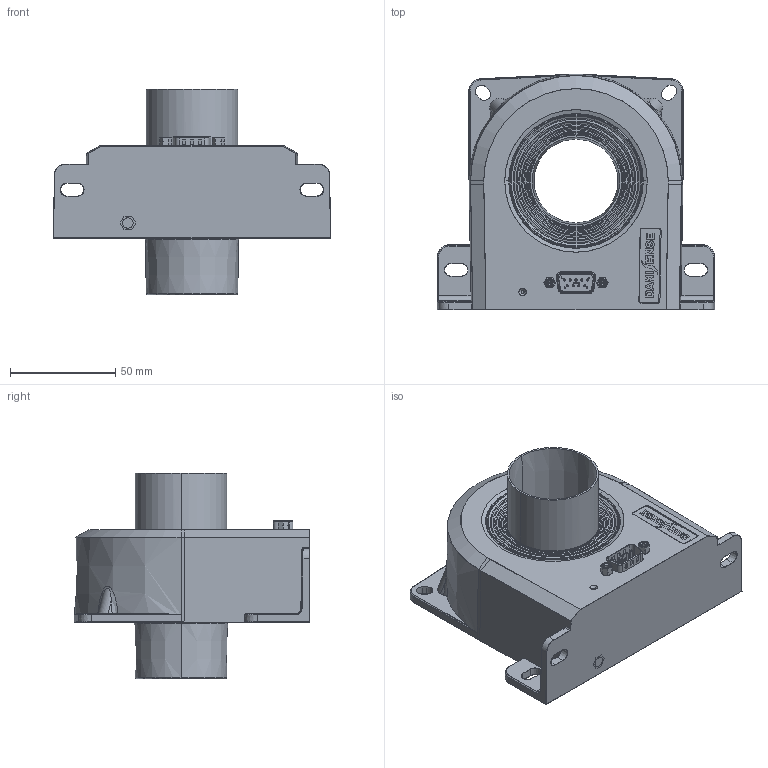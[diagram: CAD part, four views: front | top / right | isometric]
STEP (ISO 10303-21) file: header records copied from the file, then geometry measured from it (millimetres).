
FILE_DESCRIPTION (( 'STEP AP214' ), '1' );
FILE_NAME ('1212100024 - DN1000-CP02.STEP', '2026-01-20T07:22:38', ( '' ), ( '' ), 'SwSTEP 2.0', 'SolidWorks 2022', '' );
FILE_SCHEMA (( 'AUTOMOTIVE_DESIGN' ));
Length unit declared in the file: millimetre
Products named in the file (13): 4101000005; 3101000029; 4335100002_With Standoff; 4335100003; 400282; 4101000084; 2282200001; 400283; 4104100009; 4104100001; 1212100024 - DN1000-CP02; 4106100001; 4101000051
Assembly tree (17 placements, depth 2):
  1212100024 - DN1000-CP02
    4335100002_With Standoff
    4335100003
    3101000029  x2
    4106100001  x2
    4101000051  x4
    2282200001
    4104100009
    4101000005
    400282
    400283
    4104100001
    4101000084
Bounding box: 132 x 112.2 x 97.85 mm (x, y, z)
Volume: 121285.3 mm3; surface area: 133102 mm2
Topology: 18 solids, 18 shells, 3615 faces, 9295 edges, 5833 vertices
Faces by surface type: plane 1175, bspline 1047, cylinder 559, cone 380, torus 326, sphere 128
Entity records: 158242 total; most frequent: CARTESIAN_POINT 73574, ORIENTED_EDGE 17630, DIRECTION 13031, EDGE_CURVE 8815, VERTEX_POINT 5596, AXIS2_PLACEMENT_3D 4478, LINE 4075, VECTOR 4075
